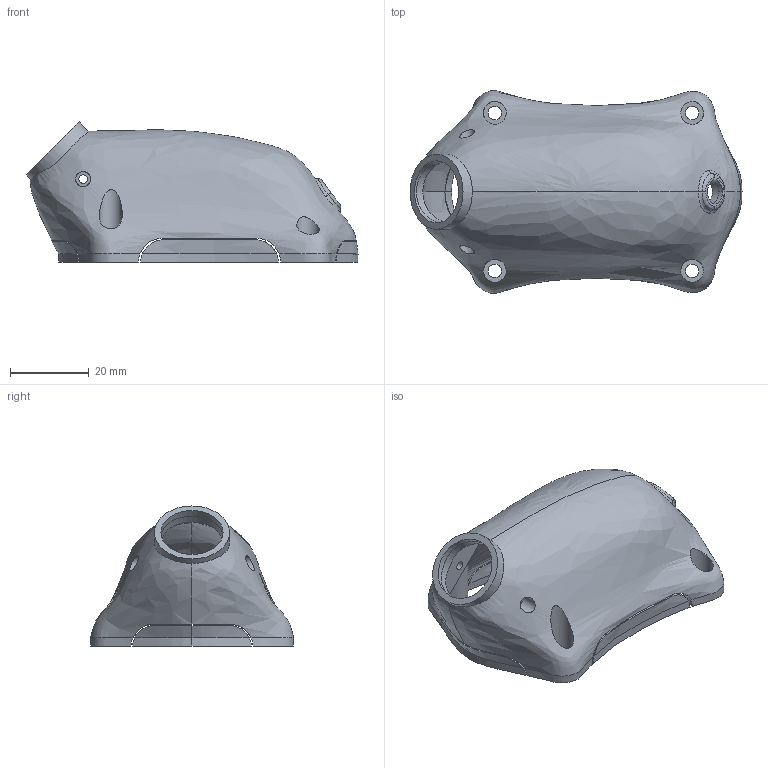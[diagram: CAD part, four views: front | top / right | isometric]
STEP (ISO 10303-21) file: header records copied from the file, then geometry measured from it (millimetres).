
FILE_DESCRIPTION(/* description */ (''),/* implementation_level */ '2;1');
FILE_NAME(/* name */ 'C:/modellbau-koepenick.de/canopies/pods/ZOZI/BusyMole/m194520-m___ZOz1-canopy_by_SMK.step',/* time_stamp */ '2021-10-15T23:07:52+02:00',/* author */ (''),/* organization */ (''),/* preprocessor_version */ 'ST-DEVELOPER v18.1',/* originating_system */ 'Autodesk Translation Framework v10.10.0.1391',/* authorisation */ '');
FILE_SCHEMA (('AUTOMOTIVE_DESIGN { 1 0 10303 214 3 1 1 }'));
Length unit declared in the file: millimetre
Products named in the file (1): ZOzz_mole_1945_M v1
Bounding box: 84.1 x 51.42 x 35.48 mm (x, y, z)
Volume: 14616.2 mm3; surface area: 16146.7 mm2
Topology: 5 solids, 5 shells, 116 faces, 316 edges, 210 vertices
Faces by surface type: bspline 50, cylinder 38, plane 28
Full cylindrical faces by diameter (mm): 2.2 x2, 3.4 x4, 3.8 x2, 5.8 x4, 6.2 x1, 15.75 x2, 19 x1
Entity records: 19228 total; most frequent: CARTESIAN_POINT 16786, ORIENTED_EDGE 620, EDGE_CURVE 310, DIRECTION 264, B_SPLINE_CURVE_WITH_KNOTS 213, VERTEX_POINT 210, EDGE_LOOP 138, FACE_OUTER_BOUND 116
